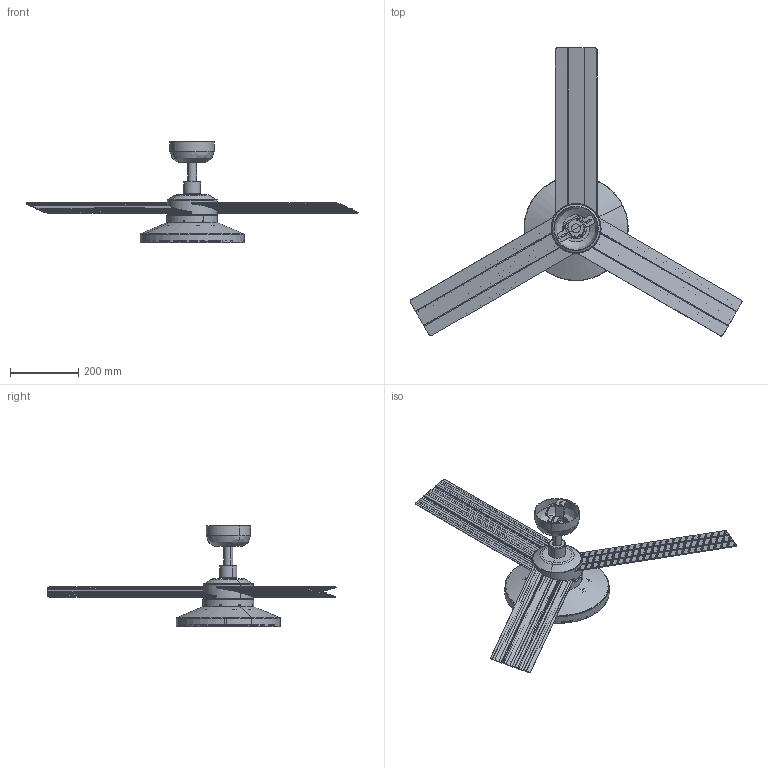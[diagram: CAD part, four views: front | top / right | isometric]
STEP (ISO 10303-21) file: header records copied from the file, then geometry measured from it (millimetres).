
FILE_DESCRIPTION(/* description */ (''),/* implementation_level */ '2;1');
FILE_NAME(/* name */ 'cruiser_tak_S_floron_3d',/* time_stamp */ '2026-06-18T12:33:10+02:00',/* author */ (''),/* organization */ (''),/* preprocessor_version */ 'ST-DEVELOPER v19.2',/* originating_system */ 'Rhino 8.30',/* authorisation */ '');
FILE_SCHEMA (('CONFIG_CONTROL_DESIGN'));
Length unit declared in the file: millimetre
Products named in the file (1): Document
Bounding box: 974.73 x 846.04 x 296.88 mm (x, y, z)
Volume: 250902.6 mm3; surface area: 1091653.2 mm2
Topology: 3 solids, 10 shells, 876 faces, 2472 edges, 1613 vertices
Faces by surface type: plane 528, cylinder 285, bspline 63
Entity records: 33504 total; most frequent: CARTESIAN_POINT 14843, ORIENTED_EDGE 4880, EDGE_CURVE 2472, DIRECTION 1883, B_SPLINE_CURVE_WITH_KNOTS 1749, VERTEX_POINT 1612, AXIS2_PLACEMENT_3D 1347, EDGE_LOOP 930
